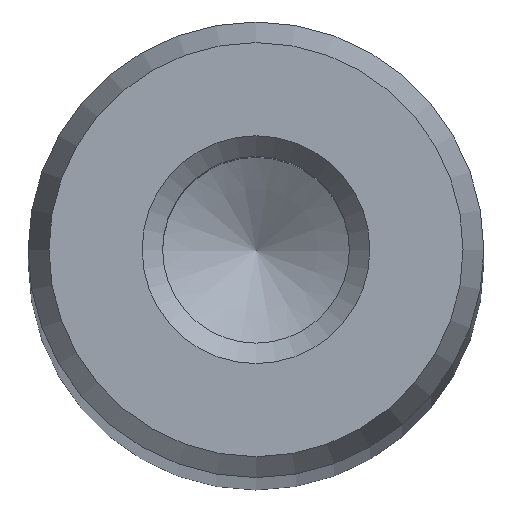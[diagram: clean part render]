
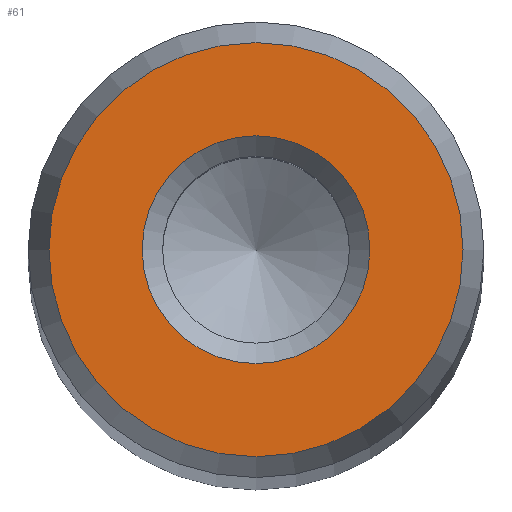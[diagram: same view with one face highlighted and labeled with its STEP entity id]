
A CAD part, top view. The second image highlights one B-rep face of the part: STEP entity #61.
In plain terms, the highlighted planar face has unit normal (0, 0, 1).
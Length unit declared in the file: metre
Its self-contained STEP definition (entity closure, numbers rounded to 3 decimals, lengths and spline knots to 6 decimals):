
#61 = ADVANCED_FACE( '', ( #128, #129 ), #130, .T. );
#128 = FACE_OUTER_BOUND( '', #187, .T. );
#129 = FACE_BOUND( '', #188, .T. );
#130 = PLANE( '', #189 );
#187 = EDGE_LOOP( '', ( #264 ) );
#188 = EDGE_LOOP( '', ( #265 ) );
#189 = AXIS2_PLACEMENT_3D( '', #266, #267, #268 );
#264 = ORIENTED_EDGE( '', *, *, #282, .T. );
#265 = ORIENTED_EDGE( '', *, *, #287, .T. );
#266 = CARTESIAN_POINT( '', ( 0., 0., 0.189 ) );
#267 = DIRECTION( '', ( 0., 0., 1. ) );
#268 = DIRECTION( '', ( 1., 0., 0. ) );
#282 = EDGE_CURVE( '', #313, #313, #314, .T. );
#287 = EDGE_CURVE( '', #321, #321, #322, .T. );
#313 = VERTEX_POINT( '', #350 );
#314 = CIRCLE( '', #351, 0.005454 );
#321 = VERTEX_POINT( '', #358 );
#322 = CIRCLE( '', #359, 0.003 );
#350 = CARTESIAN_POINT( '', ( 0.005454, 0., 0.189 ) );
#351 = AXIS2_PLACEMENT_3D( '', #388, #389, #390 );
#358 = CARTESIAN_POINT( '', ( 0.003, 0., 0.189 ) );
#359 = AXIS2_PLACEMENT_3D( '', #397, #398, #399 );
#388 = CARTESIAN_POINT( '', ( 0., 0., 0.189 ) );
#389 = DIRECTION( '', ( 0., 0., 1. ) );
#390 = DIRECTION( '', ( 1., 0., 0. ) );
#397 = CARTESIAN_POINT( '', ( 0., 0., 0.189 ) );
#398 = DIRECTION( '', ( 0., 0., -1. ) );
#399 = DIRECTION( '', ( 1., 0., 0. ) );
